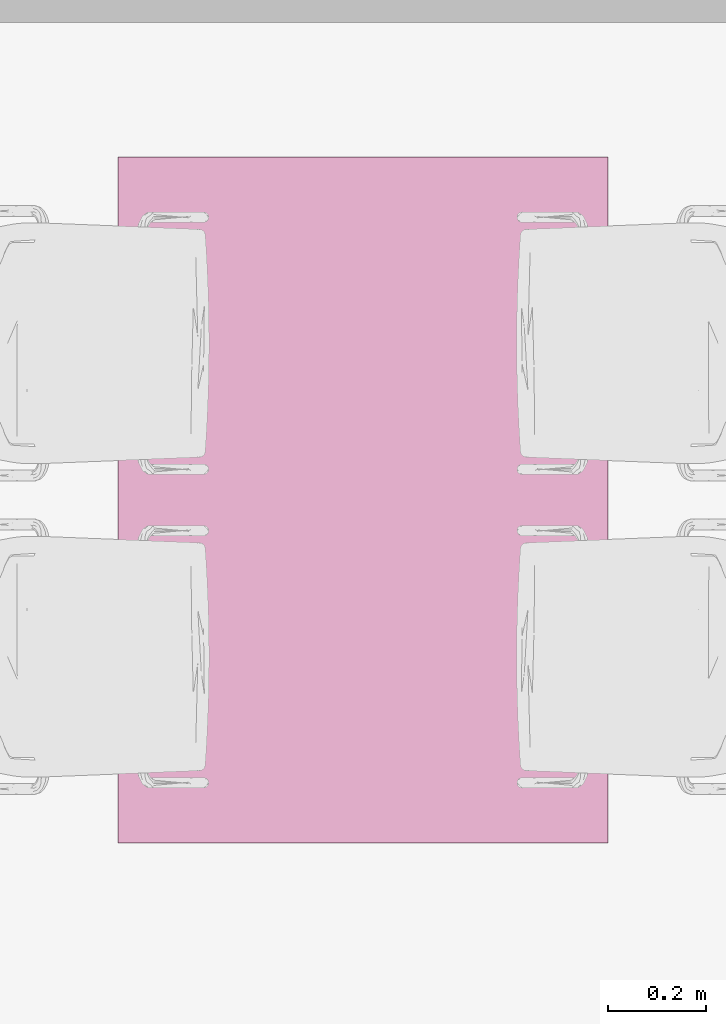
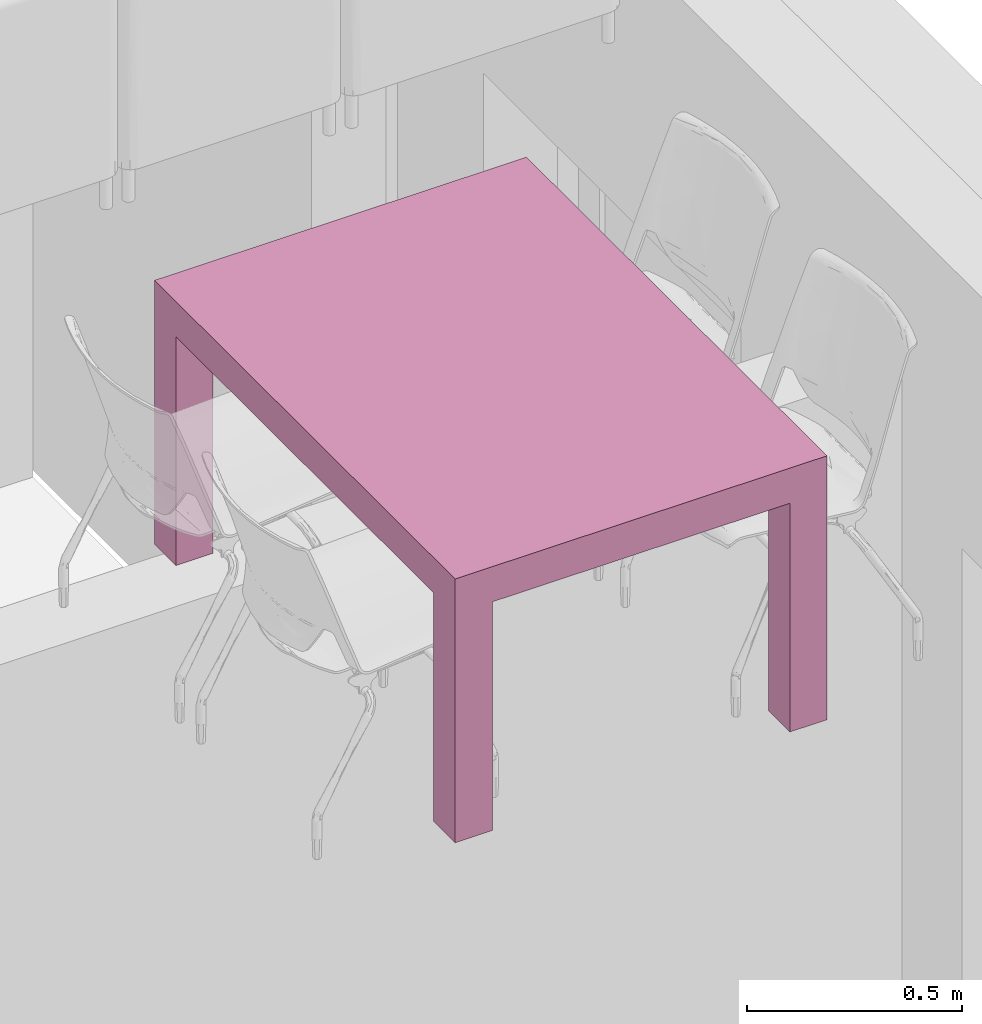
# One storey, part 33 of 68: 1 furnishing.
"""IFC2X3 building model written with IfcOpenShell, lengths in millimetres."""

import ifcopenshell
import ifcopenshell.guid

model = None  # the IFC model being written
_history = None  # IfcOwnerHistory: only IFC2X3 demands one
_inside = {}  # id of a spatial element -> (the spatial element, [elements in it])
_under = {}  # id of a project, library or spatial element -> (it, [spatial elements below it])
_declared = {}  # id of a project -> (the project, [libraries it declares])
_typed = {}  # id of a type object -> (the type object, [elements of that type])
_made_of = {}  # id of a material, layer set ... -> (it, [elements and type objects made of it])


def new_model(schema):
    """Start an empty IFC model of exactly this schema.

    Asked for "IFC4X3", IfcOpenShell would pick the latest addendum, in which some entities
    have other attributes; the version numbers below select the first issue.
    IFC2X3 requires an IfcOwnerHistory on every rooted entity: one is made here for all.
    """
    global model, _history
    if schema == "IFC4X3":
        model = ifcopenshell.file(schema_version=(4, 3, 0, 0))
    else:
        model = ifcopenshell.file(schema=schema)
    _inside.clear()
    _under.clear()
    _declared.clear()
    _typed.clear()
    _made_of.clear()
    _history = None
    if model.schema == "IFC2X3":
        org = make("IfcOrganization", Name="unknown")
        user = make(
            "IfcPersonAndOrganization",
            ThePerson=make("IfcPerson", FamilyName="unknown"),
            TheOrganization=org,
        )
        app = make(
            "IfcApplication",
            ApplicationDeveloper=org,
            Version="unknown",
            ApplicationFullName="unknown",
            ApplicationIdentifier="unknown",
        )
        _history = make(
            "IfcOwnerHistory",
            OwningUser=user,
            OwningApplication=app,
            ChangeAction="ADDED",
            CreationDate=0,
        )
    return model


def make(cls, **values):
    """One entity of the class cls with the attributes given. An attribute that is None is left unset."""
    return model.create_entity(
        cls, **{name: value for name, value in values.items() if value is not None}
    )


def entity(cls, *values):
    """Any entity or typed value of the class cls, its attributes in the order of the schema. None: left unset."""
    e = model.create_entity(cls)
    for i, value in enumerate(values):
        if value is not None:
            e[i] = value
    return e


def rooted(cls, **values):
    """An entity with a GlobalId (a new one), such as an element, a storey or a relation."""
    return make(cls, GlobalId=ifcopenshell.guid.new(), OwnerHistory=_history, **values)


def si_unit(unit_type, name, prefix=None):
    """IfcSIUnit, for example si_unit("LENGTHUNIT", "METRE", prefix="MILLI")."""
    return make("IfcSIUnit", UnitType=unit_type, Prefix=prefix, Name=name)


def converted_unit(unit_type, name, factor, base, dimensions=None, offset=None):
    """IfcConversionBasedUnit, such as the inch: factor (a typed value) times the base unit."""
    return make(
        "IfcConversionBasedUnit"
        if offset is None
        else "IfcConversionBasedUnitWithOffset",
        ConversionOffset=offset,
        Dimensions=None
        if dimensions is None
        else entity("IfcDimensionalExponents", *dimensions),
        UnitType=unit_type,
        Name=name,
        ConversionFactor=make(
            "IfcMeasureWithUnit", ValueComponent=factor, UnitComponent=base
        ),
    )


def assignment(units):
    """IfcUnitAssignment: the units of a project."""
    return None if units is None else make("IfcUnitAssignment", Units=units)


def point(xyz):
    """IfcCartesianPoint."""
    return None if xyz is None else make("IfcCartesianPoint", Coordinates=xyz)


def direction(xyz):
    """IfcDirection."""
    return None if xyz is None else make("IfcDirection", DirectionRatios=xyz)


def frame(location, z_axis=None, x_axis=None):
    """IfcAxis2Placement3D, a coordinate frame: its origin and axes. An axis left out is left unset."""
    return make(
        "IfcAxis2Placement3D",
        Location=point(location),
        Axis=direction(z_axis),
        RefDirection=direction(x_axis),
    )


def origin():
    """The frame at (0, 0, 0) with its axes left unset."""
    return frame((0.0, 0.0, 0.0))


def place(relative_to, where):
    """IfcLocalPlacement: puts the frame where relative to a parent placement (None: the world)."""
    return make(
        "IfcLocalPlacement", PlacementRelTo=relative_to, RelativePlacement=where
    )


def context(
    kind, dimensions, precision=None, world=None, true_north=None, identifier=None
):
    """IfcGeometricRepresentationContext, for example the 3D "Model" context."""
    return make(
        "IfcGeometricRepresentationContext",
        ContextIdentifier=identifier,
        ContextType=kind,
        CoordinateSpaceDimension=dimensions,
        Precision=precision,
        WorldCoordinateSystem=world,
        TrueNorth=true_north,
    )


def subcontext(parent, identifier, kind, view, scale=None):
    """IfcGeometricRepresentationSubContext, for example "Body" below "Model"."""
    return make(
        "IfcGeometricRepresentationSubContext",
        ContextIdentifier=identifier,
        ContextType=kind,
        ParentContext=parent,
        TargetScale=scale,
        TargetView=view,
    )


def project(units=None, contexts=None):
    """IfcProject with its units and contexts."""
    return rooted(
        "IfcProject",
        Name="project",
        RepresentationContexts=contexts,
        UnitsInContext=assignment(units),
    )


def spatial(cls, under=None, at=None, **own):
    """A site, building, storey or space (cls), placed at a placement, below another one or the project."""
    s = rooted(cls, ObjectPlacement=at, **own)
    if under is not None:
        _under.setdefault(under.id(), (under, []))[1].append(s)
    return s


def faces_of(points, faces, orient=None, outer=None):
    """IfcFace entities. A face is a list of loops; a loop is a list of indices into points, from 0.

    orient and outer hold one flag for each loop. By default every Orientation is true, the
    first loop of a face is its IfcFaceOuterBound and the others are IfcFaceBound.
    """
    made = []
    for i, loops in enumerate(faces):
        bounds = []
        for j, loop in enumerate(loops):
            is_outer = j == 0 if outer is None else outer[i][j]
            bounds.append(
                make(
                    "IfcFaceOuterBound" if is_outer else "IfcFaceBound",
                    Bound=make("IfcPolyLoop", Polygon=[points[k] for k in loop]),
                    Orientation=True if orient is None else orient[i][j],
                )
            )
        made.append(make("IfcFace", Bounds=bounds))
    return made


def faceted_brep(points, faces, orient=None, outer=None, voids=None):
    """IfcFacetedBrep: a solid bounded by flat faces; with voids (closed shells), ...WithVoids."""
    shared = [point(p) for p in points]
    hull = make("IfcClosedShell", CfsFaces=faces_of(shared, faces, orient, outer))
    if voids is None:
        return make("IfcFacetedBrep", Outer=hull)
    return make(
        "IfcFacetedBrepWithVoids",
        Outer=hull,
        Voids=[
            make(cls, CfsFaces=faces_of(shared, fs, o, b)) for cls, fs, o, b in voids
        ],
    )


def shape(context_of_items, identifier, shape_type, items):
    """IfcShapeRepresentation: the items that make up one representation, for example the "Body"."""
    return make(
        "IfcShapeRepresentation",
        ContextOfItems=context_of_items,
        RepresentationIdentifier=identifier,
        RepresentationType=shape_type,
        Items=items,
    )


def source(mapping_origin, context_of_items, identifier, shape_type, items):
    """IfcRepresentationMap: a shape defined once, which mapped items show again and again."""
    return make(
        "IfcRepresentationMap",
        MappingOrigin=mapping_origin,
        MappedRepresentation=shape(context_of_items, identifier, shape_type, items),
    )


def transform(
    local_origin,
    x_axis=None,
    y_axis=None,
    z_axis=None,
    scale=None,
    scale2=None,
    scale3=None,
    uniform=True,
):
    """IfcCartesianTransformationOperator3D, or its non-uniform kind. x_axis, y_axis, z_axis: its Axis1, 2, 3."""
    if uniform:
        return make(
            "IfcCartesianTransformationOperator3D",
            Axis1=direction(x_axis),
            Axis2=direction(y_axis),
            LocalOrigin=point(local_origin),
            Scale=scale,
            Axis3=direction(z_axis),
        )
    return make(
        "IfcCartesianTransformationOperator3DnonUniform",
        Axis1=direction(x_axis),
        Axis2=direction(y_axis),
        LocalOrigin=point(local_origin),
        Scale=scale,
        Axis3=direction(z_axis),
        Scale2=scale2,
        Scale3=scale3,
    )


def mapped(mapping_source, mapping_target):
    """IfcMappedItem: shows the shape of a source again, moved by a transform."""
    return make(
        "IfcMappedItem", MappingSource=mapping_source, MappingTarget=mapping_target
    )


def material(Name=None, Category=None):
    """IfcMaterial."""
    return make("IfcMaterial", Name=Name, Category=Category)


def made_of(thing, what):
    """Note that an element or type object is made of a material, layer set ...; save() writes the relation."""
    if what is not None:
        _made_of.setdefault(what.id(), (what, []))[1].append(thing)
    return thing


def type_object(cls, material=None, **own):
    """A type object (cls), such as IfcWallType, which elements share."""
    return made_of(rooted(cls, **own), material)


def type_shapes(of_type, sources):
    """Give a type object the sources (RepresentationMaps) that its elements show as mapped items."""
    of_type.RepresentationMaps = sources


def element(
    cls,
    number,
    at=None,
    inside=None,
    cuts=None,
    type_object=None,
    material=None,
    context=None,
    identifier="Body",
    shape_type=None,
    held_by="IfcProductDefinitionShape",
    body=None,
    shapes=None,
    **own,
):
    """One element of the class cls, such as IfcWall. Its Tag is "e" and its number.

    at: its placement. inside: the storey or other place that contains it. cuts: it is an
    opening in that element (IfcRelVoidsElement). A single representation is given by context,
    identifier, shape_type and body (its items); several are given by shapes. held_by: the class
    of the entity that holds the representations. save() writes the other relations.
    """
    e = rooted(cls, Tag="e%d" % number, ObjectPlacement=at, **own)
    if body is not None:
        shapes = [shape(context, identifier, shape_type, body)]
    if shapes is not None:
        e.Representation = make(held_by, Representations=shapes)
    if inside is not None:
        _inside.setdefault(inside.id(), (inside, []))[1].append(e)
    if cuts is not None:
        rooted(
            "IfcRelVoidsElement", RelatingBuildingElement=cuts, RelatedOpeningElement=e
        )
    if type_object is not None:
        _typed.setdefault(type_object.id(), (type_object, []))[1].append(e)
    return made_of(e, material)


def aggregate(whole, parts):
    """IfcRelAggregates: a whole, such as a stair, and the parts it consists of."""
    return rooted("IfcRelAggregates", RelatingObject=whole, RelatedObjects=parts)


def save(model, path):
    """Write the relations noted so far, then the file.

    IfcRelAggregates (storeys below a building ...), IfcRelContainedInSpatialStructure (elements
    in a storey), IfcRelDefinesByType, IfcRelAssociatesMaterial and IfcRelDeclares: one each for
    every whole, place, type object, material and project.
    """
    for whole, parts in _under.values():
        aggregate(whole, parts)
    for where, things in _inside.values():
        rooted(
            "IfcRelContainedInSpatialStructure",
            RelatedElements=things,
            RelatingStructure=where,
        )
    for kind, things in _typed.values():
        rooted("IfcRelDefinesByType", RelatedObjects=things, RelatingType=kind)
    for what, things in _made_of.values():
        rooted("IfcRelAssociatesMaterial", RelatedObjects=things, RelatingMaterial=what)
    for by, libraries in _declared.values():
        rooted("IfcRelDeclares", RelatingContext=by, RelatedDefinitions=libraries)
    model.write(path)


model = new_model("IFC2X3")

# Units and contexts
model_context = context("Model", 3, precision=0.01, world=origin(), true_north=direction((6.123233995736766e-17, 1.0)))
plan_context = context("Plan", 3, precision=0.01, world=origin(), true_north=direction((6.123233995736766e-17, 1.0)))
body_context = subcontext(model_context, "Body", "Model", "MODEL_VIEW")
ifc_project = project(units=[si_unit("LENGTHUNIT", "METRE", prefix="MILLI"), converted_unit("PLANEANGLEUNIT", "DEGREE", entity("IfcPlaneAngleMeasure", 0.017453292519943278), si_unit("PLANEANGLEUNIT", "RADIAN"), dimensions=[0, 0, 0, 0, 0, 0, 0]), si_unit("AREAUNIT", "SQUARE_METRE")], contexts=[model_context, plan_context])

# Site, building, storey, space
site_placement = place(None, origin())
site = spatial("IfcSite", under=ifc_project, at=site_placement, Name="Default", CompositionType="ELEMENT")
building_placement = place(site_placement, origin())
building = spatial("IfcBuilding", under=site, at=building_placement, CompositionType="ELEMENT")
storey_placement = place(building_placement, frame((0.0, 0.0, 6295.0)))
storey = spatial("IfcBuildingStorey", under=building, at=storey_placement, Name="3K", CompositionType="ELEMENT", Elevation=6294.999999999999)
space_placement = place(storey_placement, origin())
space = spatial("IfcSpace", under=storey, at=space_placement, Name="3-8.4", CompositionType="ELEMENT", InteriorOrExteriorSpace="INTERNAL")

# Furnishing
ifc_material = material(Name="<Unnamed>")
furniture_type = type_object("IfcFurnitureType", Name="HR_Furniture_Table_Generic_v2016-02-11:1600x1000", AssemblyPlace="NOTDEFINED", material=ifc_material)
shared_shape = source(origin(), body_context, "Body", "Brep", [
    faceted_brep([(-500.0, -600.0, 0.0), (-400.0, -600.0, 0.0), (-400.0, -700.0, 0.0), (-500.0, -700.0, 0.0), (-400.0, 700.0, 0.0), (-500.0, 700.0, 0.0), (-500.0, 700.0, 750.0), (500.0, 700.0, 750.0), (500.0, 700.0, 0.0), (400.0, 700.0, 0.0), (400.0, 700.0, 650.0), (-400.0, 700.0, 650.0), (-500.0, 600.0, 0.0), (-500.0, 600.0, 650.0), (-500.0, -600.0, 650.0), (-500.0, -700.0, 750.0), (-400.0, 600.0, 0.0), (-400.0, 600.0, 650.0), (400.0, 600.0, 0.0), (400.0, 600.0, 650.0), (500.0, 600.0, 0.0), (500.0, 600.0, 650.0), (500.0, -700.0, 750.0), (500.0, -700.0, 0.0), (500.0, -600.0, 0.0), (500.0, -600.0, 650.0), (400.0, -600.0, 0.0), (400.0, -600.0, 650.0), (400.0, -700.0, 0.0), (400.0, -700.0, 650.0), (-400.0, -700.0, 650.0), (-400.0, -600.0, 650.0)], [[[0, 1, 2, 3]], [[4, 5, 6, 7, 8, 9, 10, 11]], [[6, 5, 12, 13, 14, 0, 3, 15]], [[12, 16, 17, 13]], [[16, 4, 11, 17]], [[9, 18, 19, 10]], [[18, 20, 21, 19]], [[20, 8, 7, 22, 23, 24, 25, 21]], [[24, 26, 27, 25]], [[26, 28, 29, 27]], [[28, 23, 22, 15, 3, 2, 30, 29]], [[2, 1, 31, 30]], [[1, 0, 14, 31]], [[7, 6, 15, 22]], [[11, 10, 19, 21, 25, 27, 29, 30, 31, 14, 13, 17]], [[4, 16, 12, 5]], [[8, 20, 18, 9]], [[24, 23, 28, 26]]]),
])
type_shapes(furniture_type, [shared_shape])
furnishing_placement = place(space_placement, frame((15231.454415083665, 6824.999959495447, 3170.000076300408)))
element("IfcFurnishingElement", 1, at=furnishing_placement, inside=space, type_object=furniture_type, material=ifc_material, Name="HR_Furniture_Table_Generic_v2016-02-11:1600x1000", ObjectType="HR_Furniture_Table_Generic_v2016-02-11:1600x1000", context=body_context, shape_type="MappedRepresentation", body=[
    mapped(shared_shape, transform((0.0, 0.0, 0.0), scale=1.0)),
])

save(model, "model.ifc")
